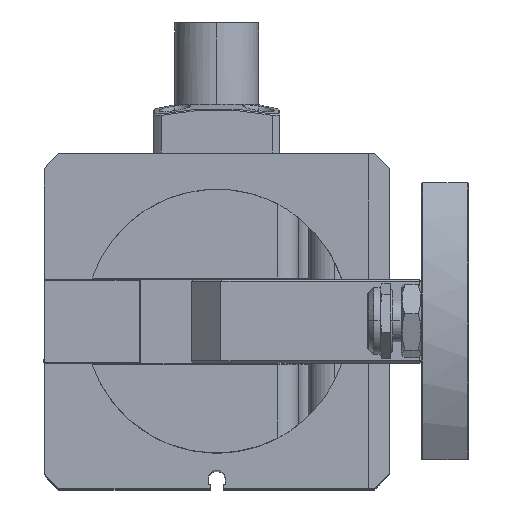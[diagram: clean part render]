
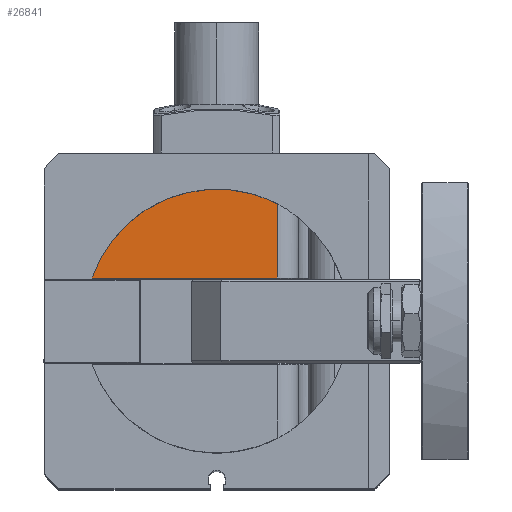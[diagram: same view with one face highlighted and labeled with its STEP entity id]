
A CAD part, top view. The second image highlights one B-rep face of the part: STEP entity #26841.
In plain terms, the highlighted planar face has unit normal (0, 0, 1).
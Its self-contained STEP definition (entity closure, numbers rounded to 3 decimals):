
#9083 = CARTESIAN_POINT ( 'NONE',  ( -29.032, 12.428, 16.5 ) ) ;
#9586 = CARTESIAN_POINT ( 'NONE',  ( -13.766, 28.422, 16.5 ) ) ;
#10760 = DIRECTION ( 'NONE',  ( -1., 0., 0. ) ) ;
#21375 = CARTESIAN_POINT ( 'NONE',  ( -7.401, 30.701, 16.5 ) ) ;
#23207 = AXIS2_PLACEMENT_3D ( 'NONE', #69224, #80954, #10760 ) ;
#26841 = ADVANCED_FACE ( 'NONE', ( #93387 ), #45653, .F. ) ;
#33156 = CARTESIAN_POINT ( 'NONE',  ( -0.696, 31.573, 16.5 ) ) ;
#36792 = B_SPLINE_CURVE_WITH_KNOTS ( 'NONE', 3,
 ( #114110, #9083, #126466, #56271, #138199, #68070, #149949, #79812, #9586, #91600, #21375, #103367, #33156, #115113, #45000, #126955, #56789, #138693 ),
 .UNSPECIFIED., .F., .F.,
 ( 4, 2, 2, 2, 2, 2, 2, 2, 4 ),
 ( 0., 0.125, 0.25, 0.375, 0.5, 0.625, 0.75, 0.875, 1. ),
 .UNSPECIFIED. ) ;
#42974 = VERTEX_POINT ( 'NONE', #109961 ) ;
#43237 = VERTEX_POINT ( 'NONE', #68422 ) ;
#45000 = CARTESIAN_POINT ( 'NONE',  ( 6.041, 30.997, 16.5 ) ) ;
#45653 = PLANE ( 'NONE',  #23207 ) ;
#53784 = CARTESIAN_POINT ( 'NONE',  ( 14.5, 10.3, 16.5 ) ) ;
#56271 = CARTESIAN_POINT ( 'NONE',  ( -25.721, 18.324, 16.5 ) ) ;
#56789 = CARTESIAN_POINT ( 'NONE',  ( 12.501, 29.001, 16.5 ) ) ;
#57475 = LINE ( 'NONE', #126162, #116066 ) ;
#65554 = ORIENTED_EDGE ( 'NONE', *, *, #146855, .F. ) ;
#66877 = EDGE_CURVE ( 'NONE', #138045, #42974, #73840, .T. ) ;
#68070 = CARTESIAN_POINT ( 'NONE',  ( -21.231, 23.379, 16.5 ) ) ;
#68422 = CARTESIAN_POINT ( 'NONE',  ( 14.5, 27.964, 16.5 ) ) ;
#69224 = CARTESIAN_POINT ( 'NONE',  ( 0., 0., 16.5 ) ) ;
#73840 = LINE ( 'NONE', #132711, #101285 ) ;
#79812 = CARTESIAN_POINT ( 'NONE',  ( -15.768, 27.362, 16.5 ) ) ;
#80954 = DIRECTION ( 'NONE',  ( 0., 0., -1. ) ) ;
#86083 = DIRECTION ( 'NONE',  ( -1., 0., 0. ) ) ;
#91600 = CARTESIAN_POINT ( 'NONE',  ( -9.582, 30.092, 16.5 ) ) ;
#93387 = FACE_OUTER_BOUND ( 'NONE', #114302, .T. ) ;
#101285 = VECTOR ( 'NONE', #86083, 1000. ) ;
#103367 = CARTESIAN_POINT ( 'NONE',  ( -2.957, 31.442, 16.5 ) ) ;
#109961 = CARTESIAN_POINT ( 'NONE',  ( -29.768, 10.3, 16.5 ) ) ;
#114110 = CARTESIAN_POINT ( 'NONE',  ( -29.768, 10.3, 16.5 ) ) ;
#114302 = EDGE_LOOP ( 'NONE', ( #129724, #65554, #151937 ) ) ;
#115113 = CARTESIAN_POINT ( 'NONE',  ( 3.803, 31.351, 16.5 ) ) ;
#116066 = VECTOR ( 'NONE', #137890, 1000. ) ;
#126162 = CARTESIAN_POINT ( 'NONE',  ( 14.5, 24.794, 16.5 ) ) ;
#126466 = CARTESIAN_POINT ( 'NONE',  ( -28.066, 14.478, 16.5 ) ) ;
#126955 = CARTESIAN_POINT ( 'NONE',  ( 10.389, 29.823, 16.5 ) ) ;
#129724 = ORIENTED_EDGE ( 'NONE', *, *, #66877, .F. ) ;
#131256 = EDGE_CURVE ( 'NONE', #42974, #43237, #36792, .T. ) ;
#132711 = CARTESIAN_POINT ( 'NONE',  ( 0., 10.3, 16.5 ) ) ;
#137890 = DIRECTION ( 'NONE',  ( 0., -1., 0. ) ) ;
#138045 = VERTEX_POINT ( 'NONE', #53784 ) ;
#138199 = CARTESIAN_POINT ( 'NONE',  ( -24.341, 20.12, 16.5 ) ) ;
#138693 = CARTESIAN_POINT ( 'NONE',  ( 14.5, 27.964, 16.5 ) ) ;
#146855 = EDGE_CURVE ( 'NONE', #43237, #138045, #57475, .T. ) ;
#149949 = CARTESIAN_POINT ( 'NONE',  ( -19.501, 24.84, 16.5 ) ) ;
#151937 = ORIENTED_EDGE ( 'NONE', *, *, #131256, .F. ) ;
